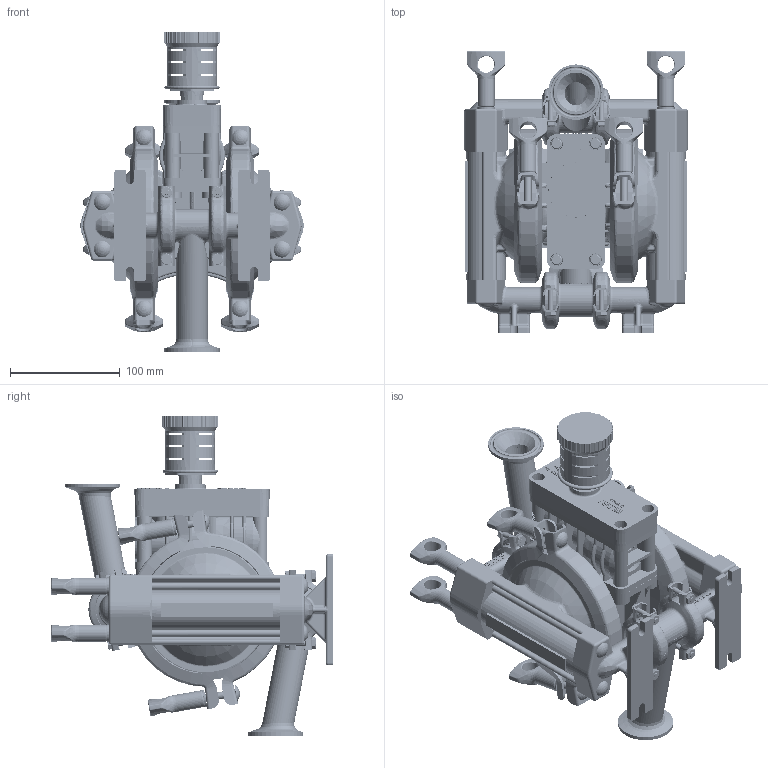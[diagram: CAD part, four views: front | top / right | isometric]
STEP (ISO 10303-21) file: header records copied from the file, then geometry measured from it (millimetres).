
FILE_DESCRIPTION((''),'2;1');
FILE_NAME('P1_METAL_070_ASM','2011-07-07T',('roy.andrade'),(''),'PRO/ENGINEER BY PARAMETRIC TECHNOLOGY CORPORATION, 2008400','PRO/ENGINEER BY PARAMETRIC TECHNOLOGY CORPORATION, 2008400','');
FILE_SCHEMA(('CONFIG_CONTROL_DESIGN'));
Length unit declared in the file: inch
Products named in the file (45): 01-3140-20R_AF0; 01-3220-55; 01-190; 01-226-2; 01-226-1; 04-3870-55-700; 313_OD_X_074_WIDTH_GLYD_RING; 04-3875-50R; 04-2785-52; 04-2650-49-700; 01-3880-99_ASM; 00-2650-03; 01-3140-20K_ASM; 01-186; 01-275; 115; 963_OD_X_111_WIDTH_GLYD_RING; 963_OD_GLYD_R_W_115_QUAD_R_ASM; 1_545_OD_X_111_WIDTH_GLYD_RING; 124; 1_545_OD_GLYD_RING_W_124_O_RING_ASM; 01-275_ASM; 01-2332-20; 01-2395-52; 01-181; 01-3181-20; 01-174; 1_4-20_UNC-3A_X_3_LG_SHCS; P1_P2_PROD_AIR_VALVE_ASSY_ASM; 04-6400-03; 01-5000-03; 01-5230-03; 01-5220-03; 01-083; 02-3510-99; 1_4-20_UNC-2A_X_7_3_8_RNSNBLT_S; 01-6730-03; 04-6651-10; 01-7300-03S; 1_4-20_UNC-2A_X_2_0_RHSNBLT_SS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
Assembly tree (105 placements, depth 5):
  P1_METAL_070_ASM
    01-3140-20K_ASM
      01-3140-20R_AF0
      01-3220-55  x2
      01-190
      01-3880-99_ASM
        01-226-2
        01-226-1
        04-3870-55-700  x3
        313_OD_X_074_WIDTH_GLYD_RING  x3
        04-3875-50R
        04-2785-52  x4
        04-2650-49-700  x2
      00-2650-03  x2
    P1_P2_PROD_AIR_VALVE_ASSY_ASM
      01-186
      01-275_ASM
        01-275
        963_OD_GLYD_R_W_115_QUAD_R_ASM  x5
          115
          963_OD_X_111_WIDTH_GLYD_RING
        1_545_OD_GLYD_RING_W_124_O_RING_ASM
          1_545_OD_X_111_WIDTH_GLYD_RING
          124
      01-2332-20
      01-2395-52
      01-181
      01-3181-20
      01-174
      1_4-20_UNC-3A_X_3_LG_SHCS  x4
    04-6400-03  x4
    01-5000-03  x2
    01-5230-03  x2
    01-5220-03  x2
    01-083  x2
    02-3510-99
    1_4-20_UNC-2A_X_7_3_8_RNSNBLT_S  x4
    01-6730-03  x4
    04-6651-10  x4
    01_FG_LARGE_CLAMP_BAND_ASM  x2
      01-7300-03S
      1_4-20_UNC-2A_X_2_0_RHSNBLT_SS
      01-6730-03
      04-6651-10
    01-062  x8
    10_24UNC_2A_X_1_LG_HHMS_SS  x8
    01-6400-03  x8
Bounding box: 203.61 x 256.67 x 291.75 mm (x, y, z)
Volume: 1691144.7 mm3; surface area: 744046.6 mm2
Topology: 109 solids, 109 shells, 12076 faces, 31303 edges, 19744 vertices
Faces by surface type: plane 7248, cylinder 1657, bspline 1514, torus 817, cone 601, sphere 239
Entity records: 272448 total; most frequent: CARTESIAN_POINT 108697, ORIENTED_EDGE 35658, DIRECTION 31067, EDGE_CURVE 17829, VECTOR 11525, LINE 11525, VERTEX_POINT 11362, AXIS2_PLACEMENT_3D 9771
